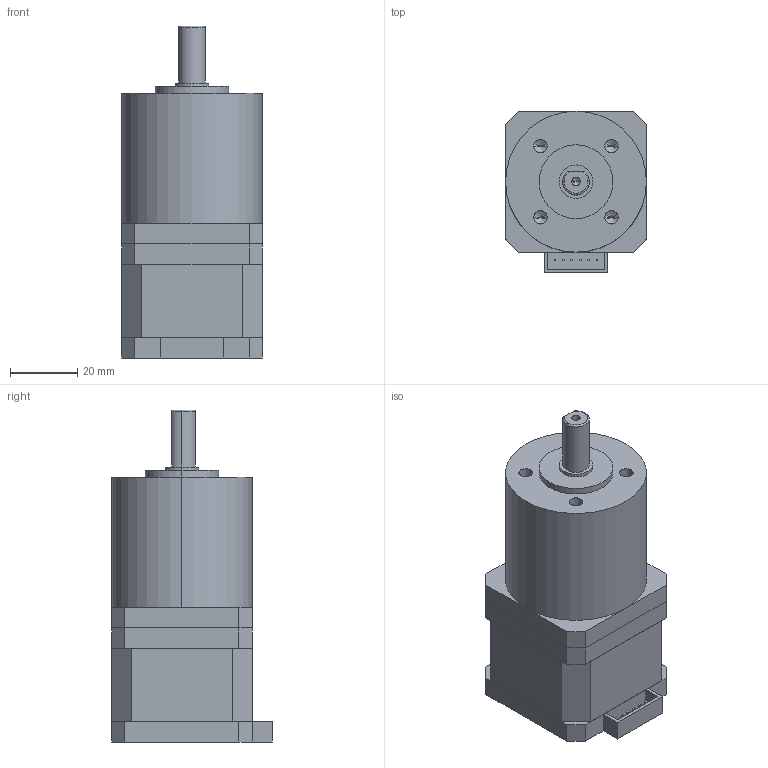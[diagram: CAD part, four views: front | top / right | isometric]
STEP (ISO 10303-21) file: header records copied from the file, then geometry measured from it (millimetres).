
FILE_DESCRIPTION (( 'STEP AP203' ), '1' );
FILE_NAME ('T42PG040-D14-0434.STEP', '2019-10-25T07:27:38', ( 'China' ), ( 'Home' ), 'SwSTEP 2.0', 'SolidWorks 2016', '' );
FILE_SCHEMA (( 'CONFIG_CONTROL_DESIGN' ));
Length unit declared in the file: millimetre
Products named in the file (1): T42PG040-D14-0434
Bounding box: 42 x 48 x 99 mm (x, y, z)
Volume: 123868.4 mm3; surface area: 26766.9 mm2
Topology: 4 solids, 4 shells, 127 faces, 301 edges, 187 vertices
Faces by surface type: plane 87, cylinder 19, cone 18, bspline 3
Entity records: 3678 total; most frequent: CARTESIAN_POINT 708, DIRECTION 586, ORIENTED_EDGE 582, EDGE_CURVE 291, VECTOR 236, LINE 236, VERTEX_POINT 187, AXIS2_PLACEMENT_3D 175
